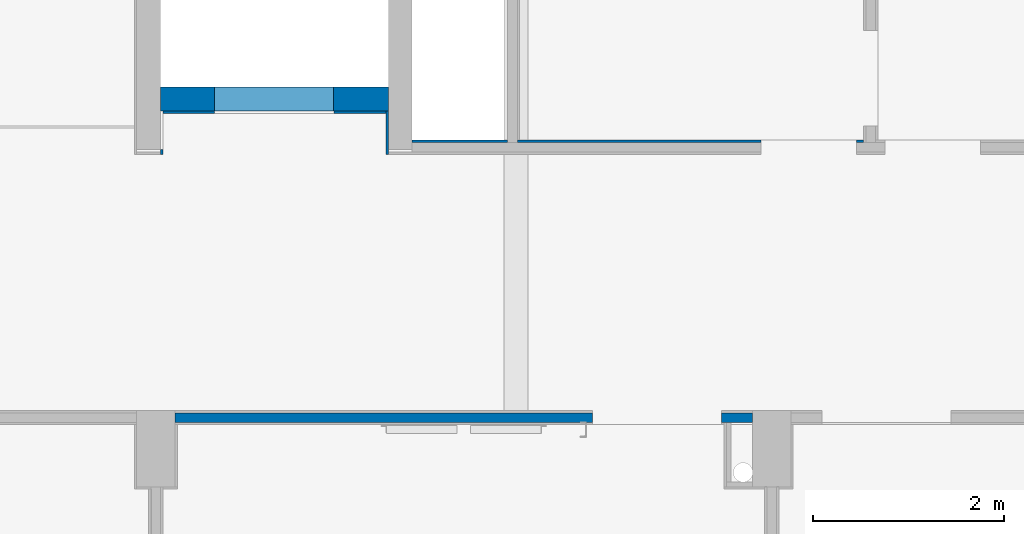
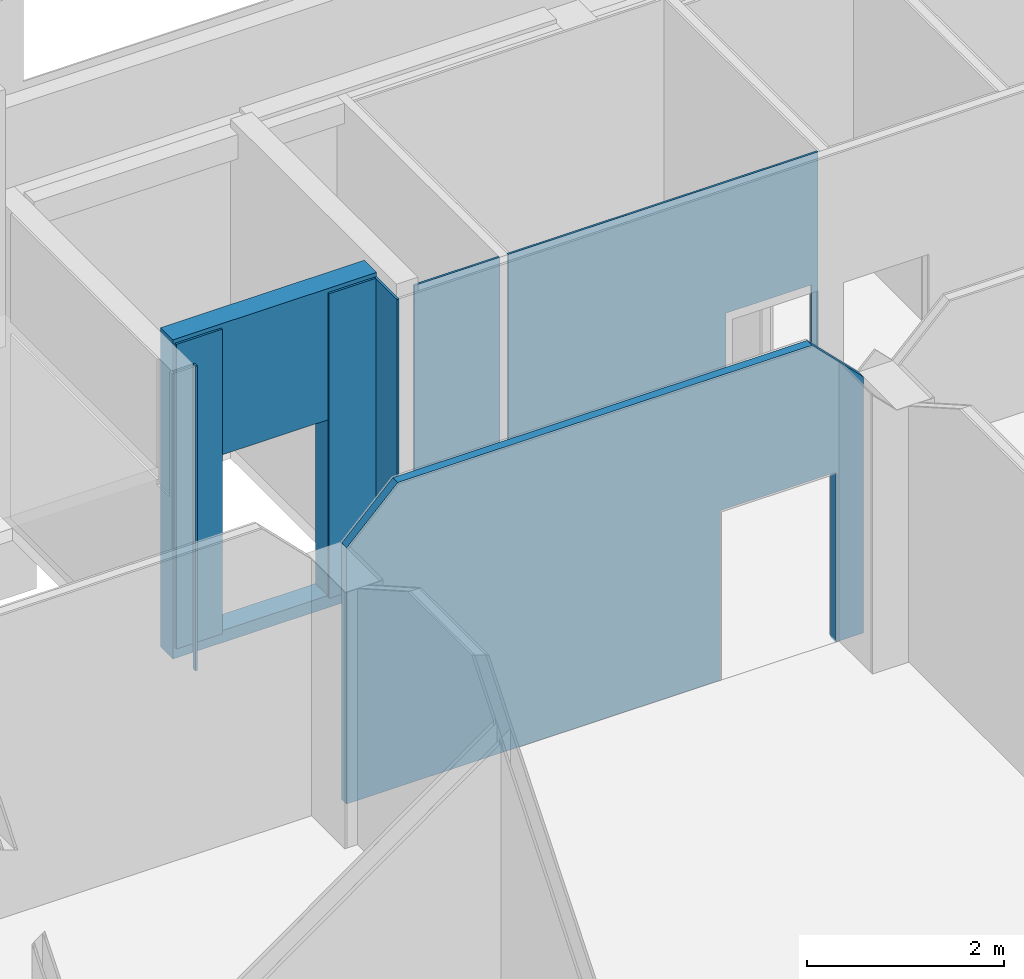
# One storey, part 22 of 29: 8 walls, 3 openings.
"""IFC2X3 building model written with IfcOpenShell, lengths in centimetres."""

from ifc_helpers import new_model, entity, si_unit, converted_unit, derived_unit, direction, frame, frame_2d, origin, place, context, subcontext, project, spatial, polyline, rectangle, extrude, clip, bounded_halfspace, material, layer, layer_set, layer_usage, type_object, element, save


model = new_model("IFC2X3")

# Units and contexts
model_context = context("Model", 3, precision=0.001, world=origin(), true_north=direction((6.12303176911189e-17, 1.0)))
body_context = subcontext(model_context, "Body", "Model", "MODEL_VIEW")
ifc_project = project(units=[si_unit("LENGTHUNIT", "METRE", prefix="CENTI"), si_unit("AREAUNIT", "SQUARE_METRE"), si_unit("VOLUMEUNIT", "CUBIC_METRE"), converted_unit("PLANEANGLEUNIT", "DEGREE", entity("IfcRatioMeasure", 0.0174532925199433), si_unit("PLANEANGLEUNIT", "RADIAN"), dimensions=[0, 0, 0, 0, 0, 0, 0]), si_unit("MASSUNIT", "GRAM", prefix="KILO"), derived_unit("MASSDENSITYUNIT", [(si_unit("MASSUNIT", "GRAM", prefix="KILO"), 1), (si_unit("LENGTHUNIT", "METRE"), -3)]), derived_unit("MOMENTOFINERTIAUNIT", [(si_unit("LENGTHUNIT", "METRE"), 4)]), si_unit("TIMEUNIT", "SECOND"), si_unit("FREQUENCYUNIT", "HERTZ"), si_unit("THERMODYNAMICTEMPERATUREUNIT", "DEGREE_CELSIUS"), derived_unit("THERMALTRANSMITTANCEUNIT", [(si_unit("MASSUNIT", "GRAM", prefix="KILO"), 1), (si_unit("THERMODYNAMICTEMPERATUREUNIT", "KELVIN"), -1), (si_unit("TIMEUNIT", "SECOND"), -3)]), derived_unit("VOLUMETRICFLOWRATEUNIT", [(si_unit("LENGTHUNIT", "METRE"), 3), (si_unit("TIMEUNIT", "SECOND"), -1)]), si_unit("ELECTRICCURRENTUNIT", "AMPERE"), si_unit("ELECTRICVOLTAGEUNIT", "VOLT"), si_unit("POWERUNIT", "WATT"), si_unit("FORCEUNIT", "NEWTON", prefix="KILO"), si_unit("ILLUMINANCEUNIT", "LUX"), si_unit("LUMINOUSFLUXUNIT", "LUMEN"), si_unit("LUMINOUSINTENSITYUNIT", "CANDELA"), derived_unit("USERDEFINED", [(si_unit("MASSUNIT", "GRAM", prefix="KILO"), -1), (si_unit("LENGTHUNIT", "METRE"), -2), (si_unit("TIMEUNIT", "SECOND"), 3), (si_unit("LUMINOUSFLUXUNIT", "LUMEN"), 1)]), derived_unit("LINEARVELOCITYUNIT", [(si_unit("LENGTHUNIT", "METRE"), 1), (si_unit("TIMEUNIT", "SECOND"), -1)]), si_unit("PRESSUREUNIT", "PASCAL"), derived_unit("USERDEFINED", [(si_unit("LENGTHUNIT", "METRE"), -2), (si_unit("MASSUNIT", "GRAM", prefix="KILO"), 1), (si_unit("TIMEUNIT", "SECOND"), -2)]), derived_unit("LINEARFORCEUNIT", [(si_unit("MASSUNIT", "GRAM", prefix="KILO"), 1), (si_unit("LENGTHUNIT", "METRE"), 1), (si_unit("TIMEUNIT", "SECOND"), -2), (si_unit("LENGTHUNIT", "METRE"), -1)]), derived_unit("PLANARFORCEUNIT", [(si_unit("MASSUNIT", "GRAM", prefix="KILO"), 1), (si_unit("LENGTHUNIT", "METRE"), 1), (si_unit("TIMEUNIT", "SECOND"), -2), (si_unit("LENGTHUNIT", "METRE"), -2)])], contexts=[model_context])

# Site, building, storey
site_placement = place(None, origin())
site = spatial("IfcSite", under=ifc_project, at=site_placement, Name="Default", CompositionType="ELEMENT")
building_placement = place(site_placement, origin())
building = spatial("IfcBuilding", under=site, at=building_placement, CompositionType="ELEMENT")
storey_placement = place(building_placement, frame((0.0, 0.0, 545.0)))
storey = spatial("IfcBuildingStorey", under=building, at=storey_placement, Name="Poziom 1K +5,45", CompositionType="ELEMENT", Elevation=544.999999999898)

# Wall, opening
ifc_material_1 = material(Name="_Beton C30/37")
ifc_layer_1 = layer(ifc_material_1, 25.0)
ifc_layer_set_1 = layer_set([ifc_layer_1], Name="Ściana podstawowa:Ściana żelbetowa gr. 25cm")
ifc_layer_usage_1 = layer_usage(ifc_layer_set_1, "AXIS2", "NEGATIVE", 12.5)
wall_type_1 = type_object("IfcWallType", Name="Ściana podstawowa:Ściana żelbetowa gr. 25cm", PredefinedType="STANDARD", material=ifc_layer_set_1)
wall_1_placement = place(storey_placement, frame((-329.265111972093, 1796.19219251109, 0.0)))
wall_1 = element("IfcWallStandardCase", 1, at=wall_1_placement, inside=storey, type_object=wall_type_1, material=ifc_layer_usage_1, Name="Ściana podstawowa:Ściana żelbetowa gr. 25cm", ObjectType="Ściana podstawowa:Ściana żelbetowa gr. 25cm", context=body_context, shape_type="SweptSolid", body=[
    extrude(rectangle(XDim=238.49999754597, YDim=24.9999999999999, at=frame_2d((119.249998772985, -1.77635683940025e-15), x_axis=(-1.0, 0.0))), origin(), (0.0, 0.0, 1.0), 395.000000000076),
])
opening_1_placement = place(wall_1_placement, origin())
element("IfcOpeningElement", 2, at=opening_1_placement, cuts=wall_1, Name="Ściana podstawowa:Ściana żelbetowa gr. 25cm", ObjectType="Opening", context=body_context, shape_type="SweptSolid", body=[
    extrude(rectangle(XDim=217.5, YDim=125.0, at=frame_2d((4.9737991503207e-14, 3.90798504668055e-14), x_axis=(1.0, 0.0))), frame((118.75, -139.9, 123.75), z_axis=(0.0, 1.0, 0.0), x_axis=(0.0, 0.0, -1.0)), (0.0, 0.0, 1.0), 304.8),
])

ifc_material_2 = material(Name="Wełna skalna")
ifc_layer_2 = layer(ifc_material_2, 10.0)
ifc_layer_set_2 = layer_set([ifc_layer_2], Name="Ściana podstawowa:Ściana GK rdzeń gr. 10cm")
ifc_layer_usage_2 = layer_usage(ifc_layer_set_2, "AXIS2", "NEGATIVE", 5.0)
wall_type_2 = type_object("IfcWallType", Name="Ściana podstawowa:Ściana GK rdzeń gr. 10cm", PredefinedType="STANDARD", material=ifc_layer_set_2)
wall_2_placement = place(storey_placement, frame((-314.265109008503, 1462.62745216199, 13.0)))
wall_2 = element("IfcWallStandardCase", 3, at=wall_2_placement, inside=storey, type_object=wall_type_2, material=ifc_layer_usage_2, Name="Ściana podstawowa:Ściana GK rdzeń gr. 10cm", ObjectType="Ściana podstawowa:Ściana GK rdzeń gr. 10cm", context=body_context, shape_type="Clipping", body=[
    clip(clip(extrude(rectangle(XDim=605.000000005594, YDim=9.99999999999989, at=frame_2d((302.500000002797, 0.0), x_axis=(-1.0, 0.0))), origin(), (0.0, 0.0, 1.0), 377.000000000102), bounded_halfspace(frame((0.0, -5.0, 317.0), z_axis=(0.707106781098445, 0.0, -0.707106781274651), x_axis=(0.0, 1.0, 0.0)), True, frame((0.0, -5.0, 317.0), z_axis=(0.707106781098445, 0.0, -0.707106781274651), x_axis=(0.0, 1.0, 0.0)), polyline([(0.0, 0.0), (10.0, 0.0), (10.0, 84.8528137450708), (0.0, 84.852813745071), (0.0, 0.0)]))), bounded_halfspace(frame((545.0, -5.0, 377.0), z_axis=(-0.707106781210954, 0.0, -0.707106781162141), x_axis=(0.0, -1.0, 0.0)), True, frame((545.0, -5.0, 377.0), z_axis=(-0.707106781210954, 0.0, -0.707106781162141), x_axis=(0.0, -1.0, 0.0)), polyline([(0.0, 0.0), (-10.0, 0.0), (-10.0, -84.8528137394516), (0.0, -84.8528137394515), (0.0, -45.9619162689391), (0.0, -42.4263823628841), (0.0, 0.0)]))),
])
opening_2_placement = place(wall_2_placement, origin())
element("IfcOpeningElement", 4, at=opening_2_placement, cuts=wall_2, Name="Ściana podstawowa:Ściana GK rdzeń gr. 10cm", ObjectType="Opening", context=body_context, shape_type="SweptSolid", body=[
    extrude(rectangle(XDim=210.0, YDim=135.0, at=frame_2d((-1.4210854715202e-14, -4.9737991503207e-14), x_axis=(0.0, 1.0))), frame((504.999982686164, -157.4, 105.0), z_axis=(0.0, 1.0, 0.0), x_axis=(1.0, 0.0, 0.0)), (0.0, 0.0, 1.0), 304.8),
])

# Wall
ifc_material_3 = material(Name="Tynk gipsowy")
ifc_layer_3 = layer(ifc_material_3, 2.5)
ifc_layer_set_3 = layer_set([ifc_layer_3], Name="Ściana podstawowa:Ściana GK wykonczenie gr. 2,5cm")
ifc_layer_usage_3 = layer_usage(ifc_layer_set_3, "AXIS2", "NEGATIVE", 1.25)
wall_type_3 = type_object("IfcWallType", Name="Ściana podstawowa:Ściana GK wykonczenie gr. 2,5cm", PredefinedType="STANDARD", material=ifc_layer_set_3)
wall_3_placement = place(storey_placement, frame((-65.765110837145, 1751.87745226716, 13.0)))
element("IfcWallStandardCase", 5, at=wall_3_placement, inside=storey, type_object=wall_type_3, material=ifc_layer_usage_3, Name="Ściana podstawowa:Ściana GK wykonczenie gr. 2,5cm", ObjectType="Ściana podstawowa:Ściana GK wykonczenie gr. 2,5cm", context=body_context, shape_type="SweptSolid", body=[
    extrude(rectangle(XDim=100.0, YDim=2.49999999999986, at=frame_2d((50.0, 1.11022302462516e-16), x_axis=(-1.0, 0.0))), origin(), (0.0, 0.0, 1.0), 377.000000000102),
])

# Wall, opening
ifc_layer_usage_4 = layer_usage(ifc_layer_set_3, "AXIS2", "NEGATIVE", 1.25)
wall_4_placement = place(storey_placement, frame((406.734879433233, 1751.87745198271, 13.0), z_axis=(0.0, 0.0, 1.0), x_axis=(-1.0, 0.0, 0.0)))
wall_4 = element("IfcWallStandardCase", 6, at=wall_4_placement, inside=storey, type_object=wall_type_3, material=ifc_layer_usage_4, Name="Ściana podstawowa:Ściana GK wykonczenie gr. 2,5cm", ObjectType="Ściana podstawowa:Ściana GK wykonczenie gr. 2,5cm", context=body_context, shape_type="SweptSolid", body=[
    extrude(rectangle(XDim=362.500000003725, YDim=2.49999999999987, at=frame_2d((181.250000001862, -3.66373598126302e-15), x_axis=(-1.0, 0.0))), origin(), (0.0, 0.0, 1.0), 377.000000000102),
])
opening_3_placement = place(wall_4_placement, origin())
element("IfcOpeningElement", 7, at=opening_3_placement, cuts=wall_4, Name="Ściana podstawowa:Ściana GK wykonczenie gr. 2,5cm", ObjectType="Opening", context=body_context, shape_type="SweptSolid", body=[
    extrude(rectangle(XDim=215.0, YDim=100.0, at=frame_2d((-2.48689957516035e-14, 0.0), x_axis=(0.0, 1.0))), frame((57.499999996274, -151.15, 107.5), z_axis=(0.0, 1.0, 0.0), x_axis=(1.0, 0.0, 0.0)), (0.0, 0.0, 1.0), 304.8),
])

# Walls
ifc_layer_4 = layer(ifc_material_3, 2.5)
ifc_layer_set_4 = layer_set([ifc_layer_4], Name="Ściana podstawowa:Tynk wykończenie gr. 2,5cm")
ifc_layer_usage_5 = layer_usage(ifc_layer_set_4, "AXIS2", "NEGATIVE", 1.25)
wall_type_4 = type_object("IfcWallType", Name="Ściana podstawowa:Tynk wykończenie gr. 2,5cm", PredefinedType="STANDARD", material=ifc_layer_set_4)
wall_5_placement = place(storey_placement, frame((-328.015111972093, 1738.12745205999, 13.0), z_axis=(0.0, 0.0, 1.0), x_axis=(0.0, 1.0, 0.0)))
element("IfcWallStandardCase", 8, at=wall_5_placement, inside=storey, type_object=wall_type_4, material=ifc_layer_usage_5, Name="Ściana podstawowa:Tynk wykończenie gr. 2,5cm", ObjectType="Ściana podstawowa:Tynk wykończenie gr. 2,5cm", context=body_context, shape_type="SweptSolid", body=[
    extrude(rectangle(XDim=4.99999855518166, YDim=2.49999999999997, at=frame_2d((2.49999927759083, 3.21964677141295e-15), x_axis=(-1.0, 0.0))), origin(), (0.0, 0.0, 1.0), 377.000000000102),
])
ifc_layer_usage_6 = layer_usage(ifc_layer_set_4, "AXIS2", "NEGATIVE", 1.25)
wall_6_placement = place(storey_placement, frame((-326.765111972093, 1782.44219251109, 13.0)))
element("IfcWallStandardCase", 9, at=wall_6_placement, inside=storey, type_object=wall_type_4, material=ifc_layer_usage_6, Name="Ściana podstawowa:Tynk wykończenie gr. 2,5cm", ObjectType="Ściana podstawowa:Tynk wykończenie gr. 2,5cm", context=body_context, shape_type="SweptSolid", body=[
    extrude(rectangle(XDim=53.999991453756, YDim=2.49999999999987, at=frame_2d((26.999995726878, -4.66293670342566e-15), x_axis=(-1.0, 0.0))), origin(), (0.0, 0.0, 1.0), 377.000000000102),
])
ifc_layer_usage_7 = layer_usage(ifc_layer_set_4, "AXIS2", "NEGATIVE", 1.25)
wall_7_placement = place(storey_placement, frame((-147.765120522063, 1782.44219251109, 13.0)))
element("IfcWallStandardCase", 10, at=wall_7_placement, inside=storey, type_object=wall_type_4, material=ifc_layer_usage_7, Name="Ściana podstawowa:Tynk wykończenie gr. 2,5cm", ObjectType="Ściana podstawowa:Tynk wykończenie gr. 2,5cm", context=body_context, shape_type="SweptSolid", body=[
    extrude(rectangle(XDim=57.0000060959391, YDim=2.49999999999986, at=frame_2d((28.5000030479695, 0.0), x_axis=(-1.0, 0.0))), origin(), (0.0, 0.0, 1.0), 377.000000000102),
])
ifc_layer_usage_8 = layer_usage(ifc_layer_set_4, "AXIS2", "NEGATIVE", 1.25)
wall_8_placement = place(storey_placement, frame((-92.0151144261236, 1783.69219251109, 13.0), z_axis=(0.0, 0.0, 1.0), x_axis=(0.0, -1.0, 0.0)))
element("IfcWallStandardCase", 11, at=wall_8_placement, inside=storey, type_object=wall_type_4, material=ifc_layer_usage_8, Name="Ściana podstawowa:Tynk wykończenie gr. 2,5cm", ObjectType="Ściana podstawowa:Tynk wykończenie gr. 2,5cm", context=body_context, shape_type="SweptSolid", body=[
    extrude(rectangle(XDim=45.5647408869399, YDim=2.5, at=frame_2d((22.7823704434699, 1.99840144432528e-15), x_axis=(-1.0, 0.0))), origin(), (0.0, 0.0, 1.0), 377.000000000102),
])

save(model, "model.ifc")
